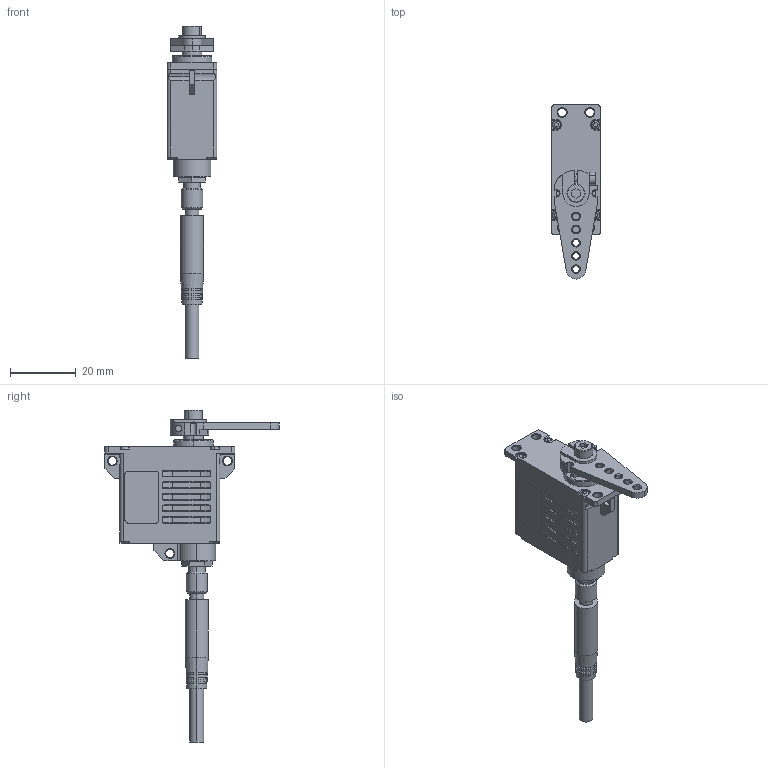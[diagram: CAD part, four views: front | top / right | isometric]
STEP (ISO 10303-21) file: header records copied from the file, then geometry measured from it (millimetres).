
FILE_DESCRIPTION (( 'STEP AP203' ), '1' );
FILE_NAME ('BLA15-06H-AA1(3D).STEP', '2022-12-06T07:16:24', ( '' ), ( '' ), 'SwSTEP 2.0', 'SolidWorks 2022', '' );
FILE_SCHEMA (( 'CONFIG_CONTROL_DESIGN' ));
Length unit declared in the file: millimetre
Products named in the file (6): BLA15-06H-AA1(3D); SCREW M3x5; HORN; BLA15-06H-AA1; SCREW M2x8; CABLE
Assembly tree (5 placements, depth 2):
  BLA15-06H-AA1(3D)
    BLA15-06H-AA1
    HORN
    SCREW M2x8
    SCREW M3x5
    CABLE
Bounding box: 15 x 52.8 x 100.65 mm (x, y, z)
Volume: 16662.5 mm3; surface area: 7491.2 mm2
Topology: 5 solids, 21 shells, 661 faces, 1669 edges, 1094 vertices
Faces by surface type: plane 277, cylinder 240, cone 84, torus 60
Entity records: 21320 total; most frequent: CARTESIAN_POINT 4274, DIRECTION 3582, ORIENTED_EDGE 3338, EDGE_CURVE 1669, AXIS2_PLACEMENT_3D 1364, VERTEX_POINT 1094, VECTOR 854, LINE 854
